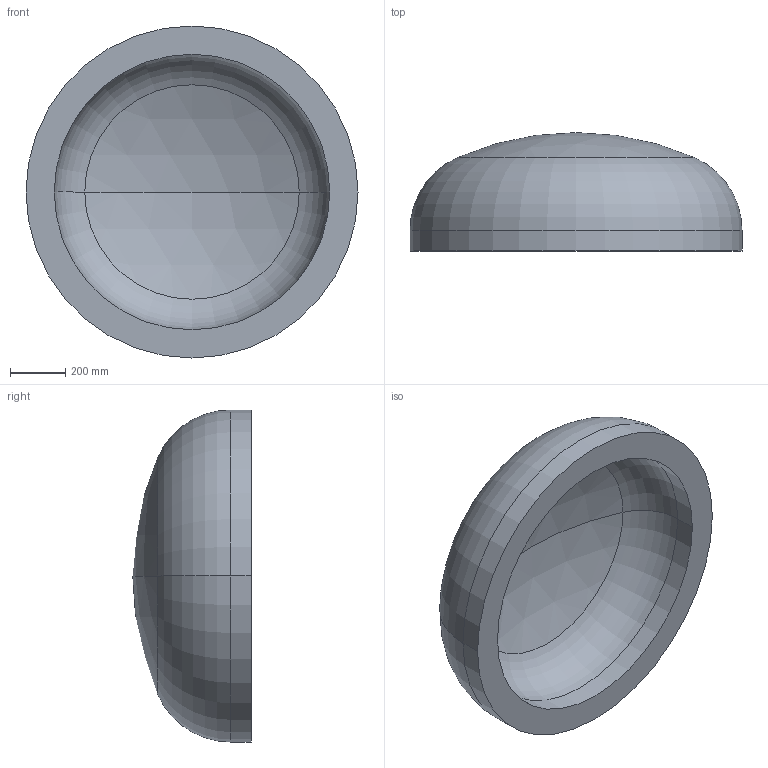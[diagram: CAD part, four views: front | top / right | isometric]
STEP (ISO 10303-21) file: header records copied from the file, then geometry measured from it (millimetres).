
FILE_DESCRIPTION (( 'STEP AP203' ), '1' );
FILE_NAME ('DIN 28013 Korbbogenform_-_Boden DIN 28013 - 1200 x 75 - I - s=102.step', '2016-07-01T09:38:00', ( '' ), ( '' ), 'SwSTEP 2.0', 'SolidWorks 2013', '' );
FILE_SCHEMA (( 'CONFIG_CONTROL_DESIGN' ));
Length unit declared in the file: millimetre
Products named in the file (1): DIN 28013 Korbbogenform_-_Boden DIN 28013 - 1200 x 75 - I - s=102
Bounding box: 1200 x 428.02 x 1200 mm (x, y, z)
Volume: 170080157 mm3; surface area: 3708540.3 mm2
Topology: 1 solids, 1 shells, 13 faces, 24 edges, 14 vertices
Faces by surface type: torus 4, cylinder 4, sphere 4, plane 1
Entity records: 407 total; most frequent: DIRECTION 72, CARTESIAN_POINT 52, ORIENTED_EDGE 48, AXIS2_PLACEMENT_3D 34, EDGE_CURVE 24, CIRCLE 20, VERTEX_POINT 14, EDGE_LOOP 14
